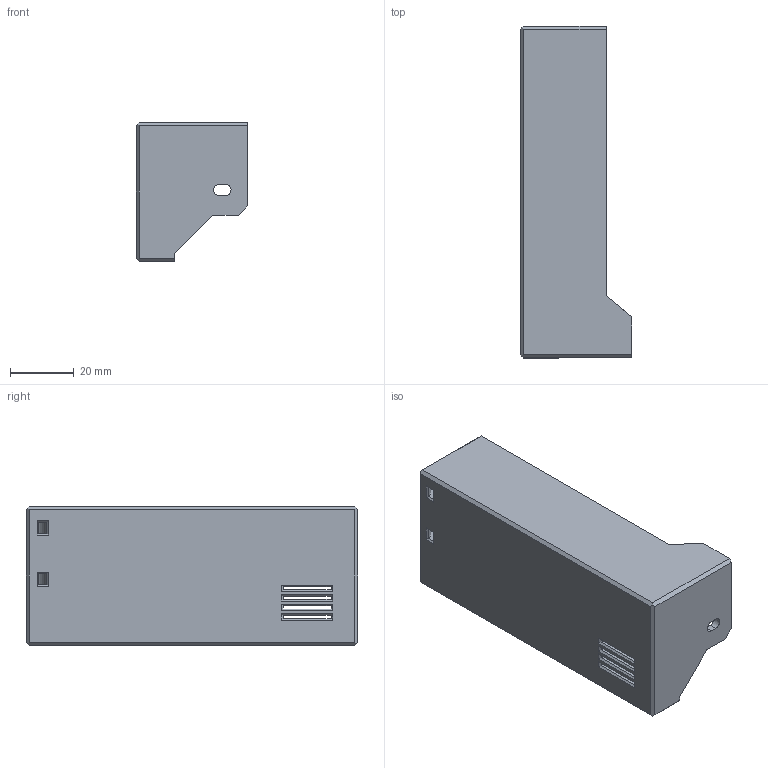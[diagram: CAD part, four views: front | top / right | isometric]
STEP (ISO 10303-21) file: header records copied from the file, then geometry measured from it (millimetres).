
FILE_DESCRIPTION(('CATIA V5 STEP Exchange'),'2;1');
FILE_NAME('D:\_이전 노트북\Cremaker모델링\Cremaker_profile-Metal(5차)-(Final)\Power-cover.stp','2020-10-23T05:23:45+00:00',('none'),('none'),'CATIA Version 5 Release 20 GA (IN-10)','CATIA V5 STEP AP203','none');
FILE_SCHEMA(('CONFIG_CONTROL_DESIGN'));
Length unit declared in the file: millimetre
Products named in the file (1): Power-cover
Bounding box: 35 x 104 x 43.5 mm (x, y, z)
Volume: 24627.9 mm3; surface area: 20107.9 mm2
Topology: 1 solids, 1 shells, 93 faces, 255 edges, 164 vertices
Faces by surface type: plane 86, cylinder 7
Entity records: 2853 total; most frequent: CARTESIAN_POINT 573, ORIENTED_EDGE 510, DIRECTION 370, EDGE_CURVE 255, VECTOR 188, LINE 188, VERTEX_POINT 164, EDGE_LOOP 107
